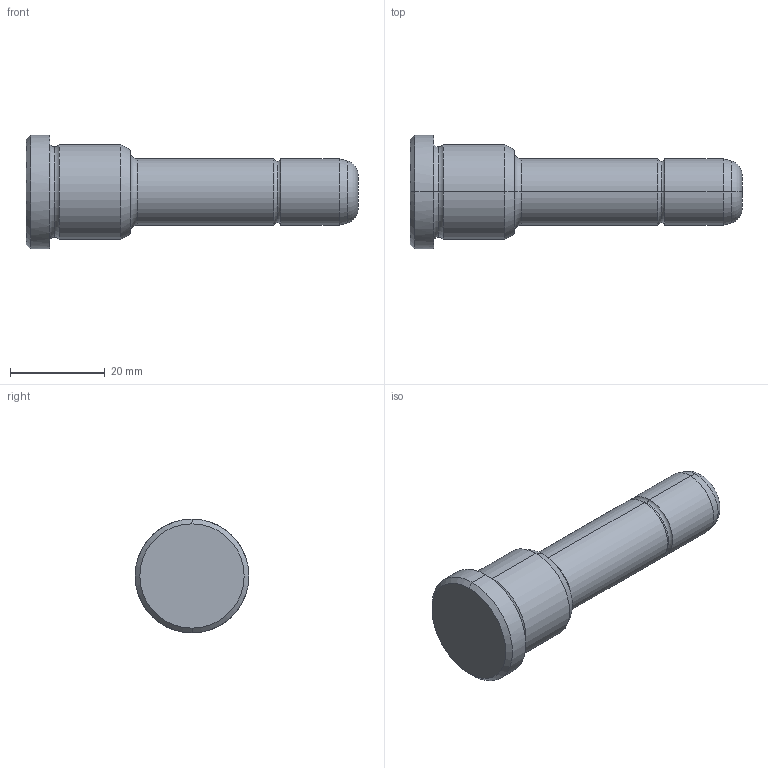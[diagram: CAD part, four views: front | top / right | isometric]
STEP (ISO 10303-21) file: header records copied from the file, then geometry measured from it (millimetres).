
FILE_DESCRIPTION(('CATIA V5 STEP Exchange'),'2;1');
FILE_NAME('C:\Users\Utente\Desktop\IO LAVORO\3D X SITO CF\X SITO\PLASTICA\351\351-14X22X70.stp','2021-08-18T09:59:42+00:00',('none'),('none'),'CATIA Version 5 Release 20 GA (IN-10)','CATIA V5 STEP AP203','none');
FILE_SCHEMA(('CONFIG_CONTROL_DESIGN'));
Length unit declared in the file: millimetre
Products named in the file (1): 351-14X22X70
Bounding box: 70 x 24 x 24 mm (x, y, z)
Volume: 14715.3 mm3; surface area: 4282.6 mm2
Topology: 1 solids, 1 shells, 30 faces, 86 edges, 60 vertices
Faces by surface type: torus 12, cylinder 8, cone 6, plane 4
Entity records: 1112 total; most frequent: CARTESIAN_POINT 289, ORIENTED_EDGE 172, DIRECTION 138, AXIS2_PLACEMENT_3D 95, EDGE_CURVE 86, CIRCLE 64, VERTEX_POINT 60, EDGE_LOOP 32
